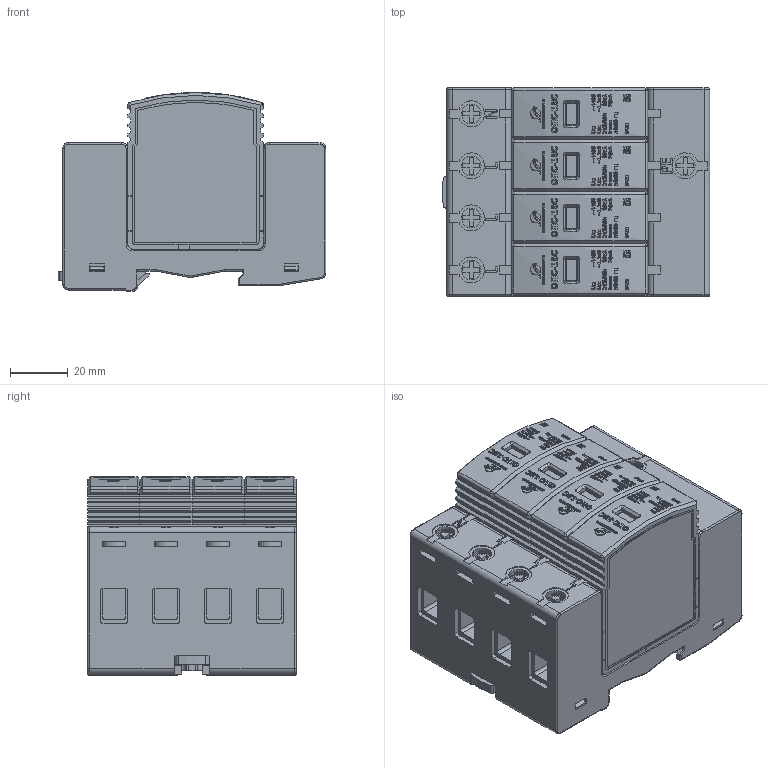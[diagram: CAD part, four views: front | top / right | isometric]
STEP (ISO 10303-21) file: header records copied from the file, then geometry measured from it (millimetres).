
FILE_DESCRIPTION(('STEP AP203'), '1');
FILE_NAME('ﾎﾏﾑ-15C-4P', '2026-08-06T15:02:10', ('Perepelkin'), (''), 'ASCON STEP Converter 1.6', 'ASCON Math Kernel', '');
FILE_SCHEMA(('CONFIG_CONTROL_DESIGN'));
Length unit declared in the file: millimetre
Assembly tree (5 placements, depth 2):
  (unnamed)
    (unnamed)
    (unnamed)  x4
Bounding box: 92.55 x 72 x 68.8 mm (x, y, z)
Volume: 349627.7 mm3; surface area: 87647.5 mm2
Topology: 5 solids, 5 shells, 7613 faces, 21085 edges, 13967 vertices
Faces by surface type: plane 4281, extrusion 2392, cylinder 869, cone 32, torus 23, bspline 16
Full cylindrical faces by diameter (mm): 6.8 x5, 9 x5
Entity records: 115650 total; most frequent: CARTESIAN_POINT 36744, ORIENTED_EDGE 14376, DIRECTION 10927, EDGE_CURVE 7188, VERTEX_POINT 4759, VECTOR 4735, LINE 4137, AXIS2_PLACEMENT_3D 3096
